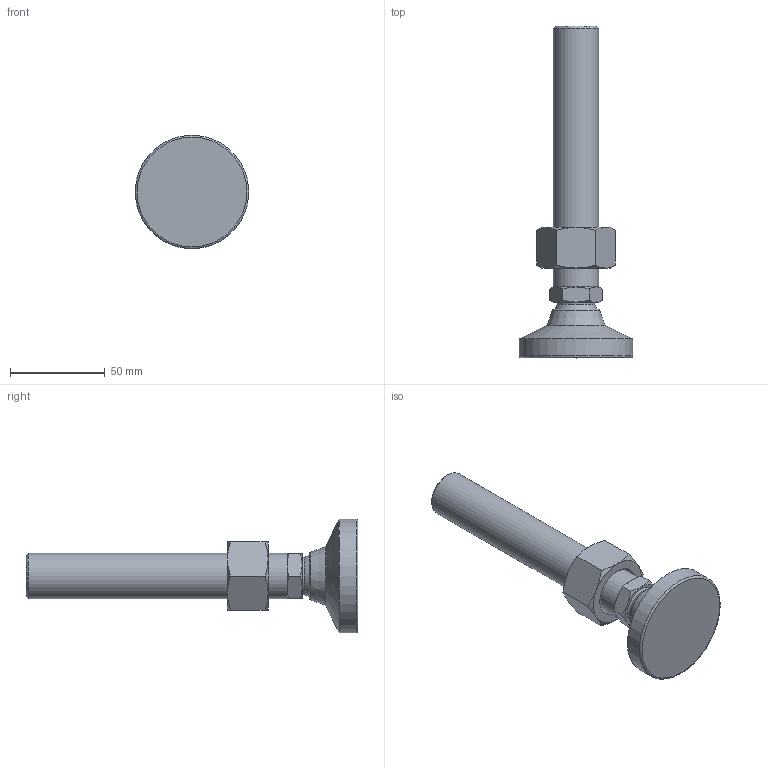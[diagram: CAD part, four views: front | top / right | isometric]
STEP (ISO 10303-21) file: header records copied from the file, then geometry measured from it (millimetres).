
FILE_DESCRIPTION( ( 'STEP AP214' ), ' ' );
FILE_NAME( 'O:/ganter_2015/teil_2/2_5/gn343_2/gn343_2_kre/Levelling foot with threaded stud GN 343.2-60-M24-138-KRE-(0).stp', '2015-10-26T09:20:51', ( '' ), ( '' ), ' ', 'PARTsolutions', ' ' );
FILE_SCHEMA( ( 'AUTOMOTIVE_DESIGN { 1 0 10303 214 1 1 1 1 }' ) );
Length unit declared in the file: millimetre
Products named in the file (4): Levelling foot with threaded stud GN 343.2-60-M24-138-KRE-(0); _Levelling foot with threaded stud GN 343.2-60-M24-138-KRE-(0)_foot; _Levelling foot with threaded stud GN 343.2-60-M24-138-KRE-(0)_screw; _Levelling foot with threaded stud GN 343.2-60-M24-138-KRE-(0)_nut
Assembly tree (3 placements, depth 2):
  Levelling foot with threaded stud GN 343.2-60-M24-138-KRE-(0)
    _Levelling foot with threaded stud GN 343.2-60-M24-138-KRE-(0)_foot
    _Levelling foot with threaded stud GN 343.2-60-M24-138-KRE-(0)_screw
    _Levelling foot with threaded stud GN 343.2-60-M24-138-KRE-(0)_nut
Bounding box: 60 x 175.5 x 60 mm (x, y, z)
Volume: 129418.8 mm3; surface area: 27406.3 mm2
Topology: 3 solids, 3 shells, 55 faces, 116 edges, 67 vertices
Faces by surface type: cone 29, plane 18, torus 3, cylinder 3, sphere 2
Full cylindrical faces by diameter (mm): 20.752 x1, 24 x1, 60 x1
Entity records: 2078 total; most frequent: CARTESIAN_POINT 535, DIRECTION 208, ORIENTED_EDGE 198, EDGE_CURVE 99, AXIS2_PLACEMENT_3D 98, EDGE_LOOP 70, VERTEX_POINT 65, FACE_OUTER_BOUND 61
